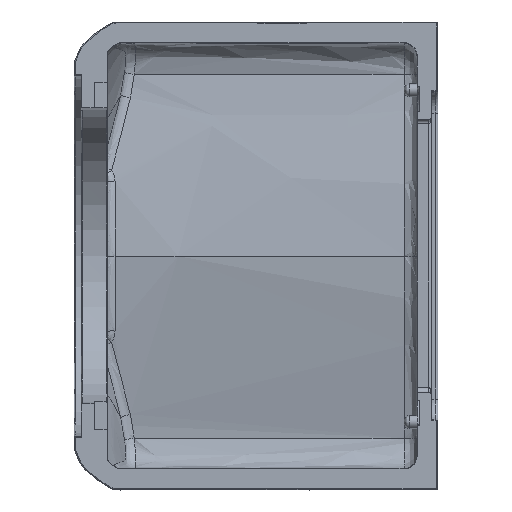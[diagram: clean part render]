
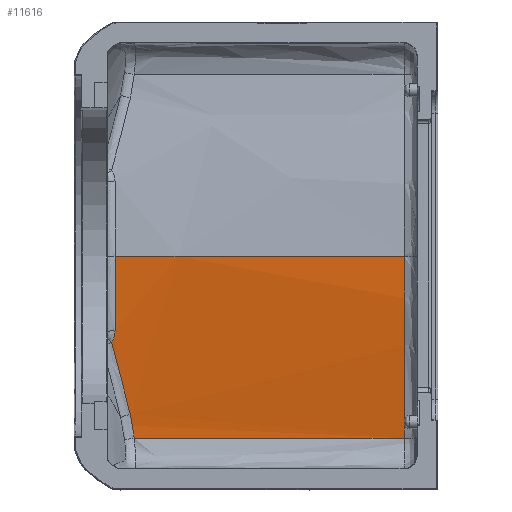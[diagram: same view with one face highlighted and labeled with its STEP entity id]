
A CAD part, top view. The second image highlights one B-rep face of the part: STEP entity #11616.
In plain terms, the highlighted free-form (B-spline) face has degree [3, 1] with [25, 2] control points.
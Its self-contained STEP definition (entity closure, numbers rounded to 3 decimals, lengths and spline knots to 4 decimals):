
#35=B_SPLINE_SURFACE_WITH_KNOTS('',3,1,((#15650,#15651),(#15652,#15653),
(#15654,#15655),(#15656,#15657),(#15658,#15659),(#15660,#15661),(#15662,
#15663),(#15664,#15665),(#15666,#15667),(#15668,#15669),(#15670,#15671),
(#15672,#15673),(#15674,#15675),(#15676,#15677),(#15678,#15679),(#15680,
#15681),(#15682,#15683),(#15684,#15685),(#15686,#15687),(#15688,#15689),
(#15690,#15691),(#15692,#15693),(#15694,#15695),(#15696,#15697),(#15698,
#15699)),.UNSPECIFIED.,.F.,.F.,.F.,(4,3,3,3,3,3,3,3,4),(2,2),(-1.,-0.8611,
-0.6904,-0.5568,-0.4329,-0.2678,
-0.1339,-0.0227,0.),(0.,17.4629),
 .UNSPECIFIED.);
#495=B_SPLINE_CURVE_WITH_KNOTS('',3,(#15256,#15257,#15258,#15259,#15260,
#15261,#15262,#15263,#15264),.UNSPECIFIED.,.F.,.F.,(4,1,1,1,1,1,4),(0.0167,
3.8734,6.4446,7.7302,8.373,8.6944,
9.0158),.UNSPECIFIED.);
#508=B_SPLINE_CURVE_WITH_KNOTS('',3,(#15702,#15703,#15704,#15705),
 .UNSPECIFIED.,.F.,.F.,(4,4),(-3.8667,-0.7877),
 .UNSPECIFIED.);
#509=B_SPLINE_CURVE_WITH_KNOTS('',3,(#15707,#15708,#15709,#15710),
 .UNSPECIFIED.,.F.,.F.,(4,4),(5.2736,8.992),
 .UNSPECIFIED.);
#510=B_SPLINE_CURVE_WITH_KNOTS('',3,(#15712,#15713,#15714,#15715,#15716,
#15717,#15718,#15719),.UNSPECIFIED.,.F.,.F.,(4,1,1,1,1,4),(0.5604,
0.6473,0.7341,0.821,0.9947,1.1684),
 .UNSPECIFIED.);
#511=B_SPLINE_CURVE_WITH_KNOTS('',3,(#15721,#15722,#15723,#15724,#15725,
#15726,#15727),.UNSPECIFIED.,.F.,.F.,(4,2,1,4),(-4.6057,-2.9047,
-2.503,-0.8964),.UNSPECIFIED.);
#512=B_SPLINE_CURVE_WITH_KNOTS('',3,(#15728,#15729,#15730,#15731,#15732,
#15733),.UNSPECIFIED.,.F.,.F.,(4,1,1,4),(0.,0.3146,0.6292,
1.1011),.UNSPECIFIED.);
#513=B_SPLINE_CURVE_WITH_KNOTS('',3,(#15734,#15735,#15736,#15737,#15738,
#15739),.UNSPECIFIED.,.F.,.F.,(4,2,4),(-14.9157,-7.7754,
-3.8667),.UNSPECIFIED.);
#1897=LINE('',#15498,#2486);
#2486=VECTOR('',#12927,0.3937);
#3128=FACE_OUTER_BOUND('',#3845,.T.);
#3845=EDGE_LOOP('',(#8064,#8065,#8066,#8067,#8068,#8069,#8070,#8071));
#4865=VERTEX_POINT('',#15244);
#4866=VERTEX_POINT('',#15255);
#4874=VERTEX_POINT('',#15497);
#4881=VERTEX_POINT('',#15700);
#4882=VERTEX_POINT('',#15701);
#4883=VERTEX_POINT('',#15706);
#4884=VERTEX_POINT('',#15711);
#4885=VERTEX_POINT('',#15720);
#6121=EDGE_CURVE('',#4865,#4866,#495,.T.);
#6131=EDGE_CURVE('',#4866,#4874,#1897,.T.);
#6139=EDGE_CURVE('',#4881,#4882,#508,.T.);
#6140=EDGE_CURVE('',#4883,#4882,#509,.T.);
#6141=EDGE_CURVE('',#4884,#4883,#510,.T.);
#6142=EDGE_CURVE('',#4885,#4884,#511,.T.);
#6143=EDGE_CURVE('',#4874,#4885,#512,.T.);
#6144=EDGE_CURVE('',#4865,#4881,#513,.T.);
#8064=ORIENTED_EDGE('',*,*,#6139,.T.);
#8065=ORIENTED_EDGE('',*,*,#6140,.F.);
#8066=ORIENTED_EDGE('',*,*,#6141,.F.);
#8067=ORIENTED_EDGE('',*,*,#6142,.F.);
#8068=ORIENTED_EDGE('',*,*,#6143,.F.);
#8069=ORIENTED_EDGE('',*,*,#6131,.F.);
#8070=ORIENTED_EDGE('',*,*,#6121,.F.);
#8071=ORIENTED_EDGE('',*,*,#6144,.T.);
#11616=ADVANCED_FACE('',(#3128),#35,.F.);
#12927=DIRECTION('',(-1.,0.,0.));
#15244=CARTESIAN_POINT('',(6.35,0.,-3.6));
#15255=CARTESIAN_POINT('',(6.35,-3.5,-4.1));
#15256=CARTESIAN_POINT('Ctrl Pts',(6.35,0.,-3.6));
#15257=CARTESIAN_POINT('Ctrl Pts',(6.35,-0.4886,-3.6));
#15258=CARTESIAN_POINT('Ctrl Pts',(6.35,-1.3051,-3.6891));
#15259=CARTESIAN_POINT('Ctrl Pts',(6.35,-2.2829,-3.8974));
#15260=CARTESIAN_POINT('Ctrl Pts',(6.35,-2.866,-4.0211));
#15261=CARTESIAN_POINT('Ctrl Pts',(6.35,-3.1685,-4.0726));
#15262=CARTESIAN_POINT('Ctrl Pts',(6.35,-3.3503,-4.0939));
#15263=CARTESIAN_POINT('Ctrl Pts',(6.35,-3.4466,-4.1));
#15264=CARTESIAN_POINT('Ctrl Pts',(6.35,-3.5,-4.1));
#15497=CARTESIAN_POINT('',(1.1569,-3.5,-4.1));
#15498=CARTESIAN_POINT('',(7.,-3.5,-4.1));
#15650=CARTESIAN_POINT('Ctrl Pts',(7.,3.5,-4.1));
#15651=CARTESIAN_POINT('Ctrl Pts',(0.1249,3.5,-4.1));
#15652=CARTESIAN_POINT('Ctrl Pts',(7.,3.2553,-4.1));
#15653=CARTESIAN_POINT('Ctrl Pts',(0.1249,3.2553,-4.1));
#15654=CARTESIAN_POINT('Ctrl Pts',(7.,2.996,-4.0698));
#15655=CARTESIAN_POINT('Ctrl Pts',(0.1249,2.996,-4.0698));
#15656=CARTESIAN_POINT('Ctrl Pts',(7.,2.7114,-4.0168));
#15657=CARTESIAN_POINT('Ctrl Pts',(0.1249,2.7114,-4.0168));
#15658=CARTESIAN_POINT('Ctrl Pts',(7.,2.3619,-3.9516));
#15659=CARTESIAN_POINT('Ctrl Pts',(0.1249,2.3619,-3.9516));
#15660=CARTESIAN_POINT('Ctrl Pts',(7.,1.9747,-3.8524));
#15661=CARTESIAN_POINT('Ctrl Pts',(0.1249,1.9747,-3.8524));
#15662=CARTESIAN_POINT('Ctrl Pts',(7.,1.5485,-3.7669));
#15663=CARTESIAN_POINT('Ctrl Pts',(0.1249,1.5485,-3.7669));
#15664=CARTESIAN_POINT('Ctrl Pts',(7.,1.2148,-3.7));
#15665=CARTESIAN_POINT('Ctrl Pts',(0.1249,1.2148,-3.7));
#15666=CARTESIAN_POINT('Ctrl Pts',(7.,0.857,-3.6432));
#15667=CARTESIAN_POINT('Ctrl Pts',(0.1249,0.857,-3.6432));
#15668=CARTESIAN_POINT('Ctrl Pts',(7.,0.4833,-3.6169));
#15669=CARTESIAN_POINT('Ctrl Pts',(0.1249,0.4833,
-3.6169));
#15670=CARTESIAN_POINT('Ctrl Pts',(7.,0.137,-3.5926));
#15671=CARTESIAN_POINT('Ctrl Pts',(0.1249,0.137,
-3.5926));
#15672=CARTESIAN_POINT('Ctrl Pts',(7.,-0.2228,-3.5952));
#15673=CARTESIAN_POINT('Ctrl Pts',(0.1249,-0.2228,
-3.5952));
#15674=CARTESIAN_POINT('Ctrl Pts',(7.,-0.5806,-3.6234));
#15675=CARTESIAN_POINT('Ctrl Pts',(0.1249,-0.5806,
-3.6234));
#15676=CARTESIAN_POINT('Ctrl Pts',(7.,-1.0576,-3.661));
#15677=CARTESIAN_POINT('Ctrl Pts',(0.1249,-1.0576,
-3.661));
#15678=CARTESIAN_POINT('Ctrl Pts',(7.,-1.5312,-3.7434));
#15679=CARTESIAN_POINT('Ctrl Pts',(0.1249,-1.5312,
-3.7434));
#15680=CARTESIAN_POINT('Ctrl Pts',(7.,-1.96,-3.8302));
#15681=CARTESIAN_POINT('Ctrl Pts',(0.1249,-1.96,
-3.8302));
#15682=CARTESIAN_POINT('Ctrl Pts',(7.,-2.3077,-3.9006));
#15683=CARTESIAN_POINT('Ctrl Pts',(0.1249,-2.3077,
-3.9006));
#15684=CARTESIAN_POINT('Ctrl Pts',(7.,-2.6259,-3.9726));
#15685=CARTESIAN_POINT('Ctrl Pts',(0.1249,-2.6259,
-3.9726));
#15686=CARTESIAN_POINT('Ctrl Pts',(7.,-2.8907,-4.023));
#15687=CARTESIAN_POINT('Ctrl Pts',(0.1249,-2.8907,
-4.023));
#15688=CARTESIAN_POINT('Ctrl Pts',(7.,-3.1107,-4.0649));
#15689=CARTESIAN_POINT('Ctrl Pts',(0.1249,-3.1107,
-4.0649));
#15690=CARTESIAN_POINT('Ctrl Pts',(7.,-3.2938,-4.0911));
#15691=CARTESIAN_POINT('Ctrl Pts',(0.1249,-3.2938,
-4.0911));
#15692=CARTESIAN_POINT('Ctrl Pts',(7.,-3.4258,-4.098));
#15693=CARTESIAN_POINT('Ctrl Pts',(0.1249,-3.4258,
-4.098));
#15694=CARTESIAN_POINT('Ctrl Pts',(7.,-3.4527,-4.0994));
#15695=CARTESIAN_POINT('Ctrl Pts',(0.1249,-3.4527,
-4.0994));
#15696=CARTESIAN_POINT('Ctrl Pts',(7.,-3.4775,-4.1));
#15697=CARTESIAN_POINT('Ctrl Pts',(0.1249,-3.4775,
-4.1));
#15698=CARTESIAN_POINT('Ctrl Pts',(7.,-3.5,-4.1));
#15699=CARTESIAN_POINT('Ctrl Pts',(0.1249,-3.5,-4.1));
#15700=CARTESIAN_POINT('',(2.,0.,-3.6));
#15701=CARTESIAN_POINT('',(0.7878,0.,-3.6));
#15702=CARTESIAN_POINT('Ctrl Pts',(2.,0.,-3.6));
#15703=CARTESIAN_POINT('Ctrl Pts',(1.5959,0.,
-3.6));
#15704=CARTESIAN_POINT('Ctrl Pts',(1.1919,0.,
-3.6));
#15705=CARTESIAN_POINT('Ctrl Pts',(0.7878,0.,
-3.6));
#15706=CARTESIAN_POINT('',(0.7878,-1.4329,-3.7315));
#15707=CARTESIAN_POINT('Ctrl Pts',(0.7878,-1.4329,-3.7315));
#15708=CARTESIAN_POINT('Ctrl Pts',(0.7878,-0.9573,-3.6513));
#15709=CARTESIAN_POINT('Ctrl Pts',(0.7878,-0.4777,-3.6));
#15710=CARTESIAN_POINT('Ctrl Pts',(0.7878,0.,-3.6));
#15711=CARTESIAN_POINT('',(0.721,-1.6527,-3.7704));
#15712=CARTESIAN_POINT('Ctrl Pts',(0.721,-1.6527,-3.7704));
#15713=CARTESIAN_POINT('Ctrl Pts',(0.7285,-1.6444,
-3.7689));
#15714=CARTESIAN_POINT('Ctrl Pts',(0.7418,-1.6261,
-3.7655));
#15715=CARTESIAN_POINT('Ctrl Pts',(0.7573,-1.5962,
-3.7601));
#15716=CARTESIAN_POINT('Ctrl Pts',(0.7731,-1.5544,
-3.7525));
#15717=CARTESIAN_POINT('Ctrl Pts',(0.785,-1.4994,
-3.7428));
#15718=CARTESIAN_POINT('Ctrl Pts',(0.7878,-1.4551,-3.7352));
#15719=CARTESIAN_POINT('Ctrl Pts',(0.7878,-1.4329,-3.7315));
#15720=CARTESIAN_POINT('',(1.0804,-3.0428,-4.0506));
#15721=CARTESIAN_POINT('Ctrl Pts',(1.0804,-3.0428,-4.0506));
#15722=CARTESIAN_POINT('Ctrl Pts',(1.0378,-2.8202,-4.0122));
#15723=CARTESIAN_POINT('Ctrl Pts',(0.9804,-2.6078,-3.9662));
#15724=CARTESIAN_POINT('Ctrl Pts',(0.9046,-2.348,
-3.9112));
#15725=CARTESIAN_POINT('Ctrl Pts',(0.8326,-2.1004,
-3.8585));
#15726=CARTESIAN_POINT('Ctrl Pts',(0.7676,-1.8524,
-3.8074));
#15727=CARTESIAN_POINT('Ctrl Pts',(0.721,-1.6527,
-3.7704));
#15728=CARTESIAN_POINT('Ctrl Pts',(1.1569,-3.5,-4.1));
#15729=CARTESIAN_POINT('Ctrl Pts',(1.1504,-3.451,-4.1));
#15730=CARTESIAN_POINT('Ctrl Pts',(1.1367,-3.36,-4.0947));
#15731=CARTESIAN_POINT('Ctrl Pts',(1.1114,-3.2086,-4.0776));
#15732=CARTESIAN_POINT('Ctrl Pts',(1.0924,-3.1046,-4.0612));
#15733=CARTESIAN_POINT('Ctrl Pts',(1.0804,-3.0428,-4.0506));
#15734=CARTESIAN_POINT('Ctrl Pts',(6.35,0.,-3.6));
#15735=CARTESIAN_POINT('Ctrl Pts',(5.4129,0.,
-3.6));
#15736=CARTESIAN_POINT('Ctrl Pts',(4.4759,0.,
-3.6));
#15737=CARTESIAN_POINT('Ctrl Pts',(3.0259,0.,
-3.6));
#15738=CARTESIAN_POINT('Ctrl Pts',(2.5129,0.,
-3.6));
#15739=CARTESIAN_POINT('Ctrl Pts',(2.,0.,
-3.6));
